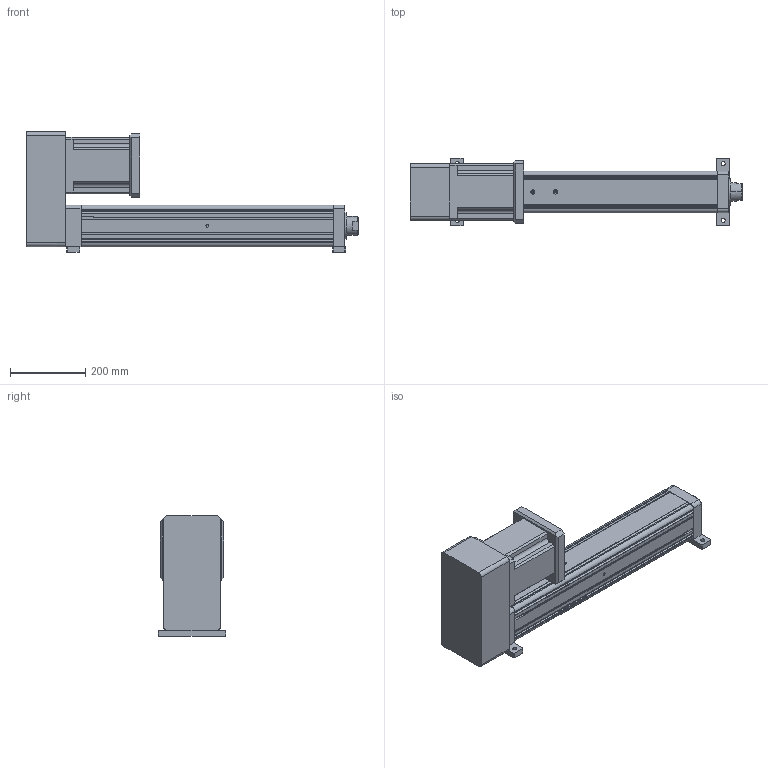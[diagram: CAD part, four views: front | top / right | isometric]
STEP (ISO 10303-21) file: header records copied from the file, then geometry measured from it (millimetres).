
FILE_DESCRIPTION (( 'STEP AP203' ), '1' );
FILE_NAME ('YRJ110-L500-H2K2.STEP', '2020-01-04T06:12:38', ( 'User' ), ( 'China' ), 'SwSTEP 2.0', 'SolidWorks 2016', '' );
FILE_SCHEMA (( 'CONFIG_CONTROL_DESIGN' ));
Length unit declared in the file: millimetre
Products named in the file (7): 095-100俴最倰第; 萇儂碟-110; 142熬厒儂; H2-110-1; K2-110; H2-110-2; YRJ110-L500-H2K2
Assembly tree (6 placements, depth 2):
  YRJ110-L500-H2K2
    095-100俴最倰第
    萇儂碟-110
    142熬厒儂
    H2-110-1
    H2-110-2
    K2-110
Bounding box: 881 x 180 x 320 mm (x, y, z)
Volume: 12700765.5 mm3; surface area: 1086922.6 mm2
Topology: 6 solids, 6 shells, 320 faces, 882 edges, 569 vertices
Faces by surface type: plane 183, cylinder 110, cone 27
Entity records: 11146 total; most frequent: CARTESIAN_POINT 2104, DIRECTION 1737, ORIENTED_EDGE 1732, EDGE_CURVE 866, VECTOR 609, LINE 609, VERTEX_POINT 569, AXIS2_PLACEMENT_3D 564
